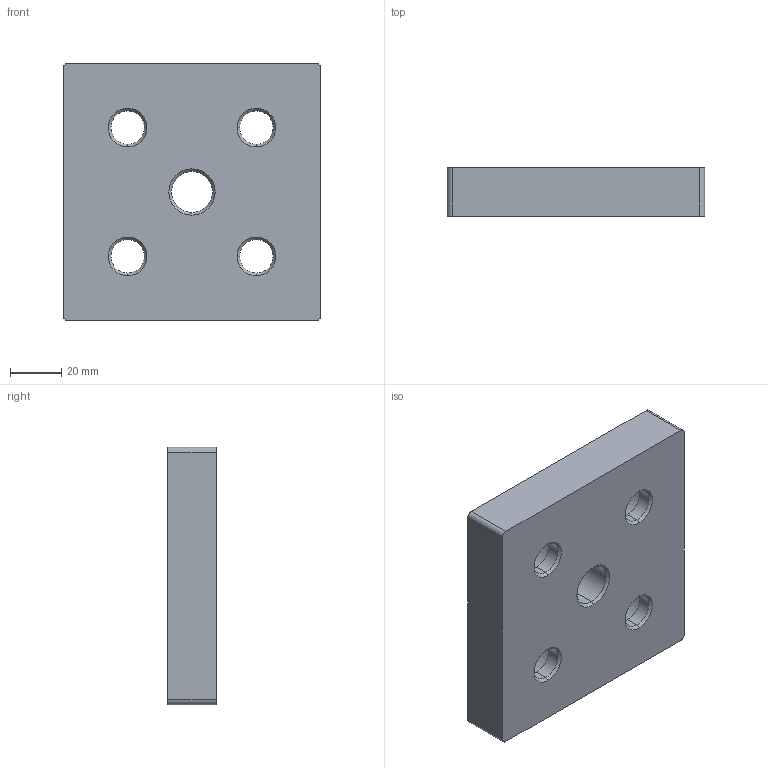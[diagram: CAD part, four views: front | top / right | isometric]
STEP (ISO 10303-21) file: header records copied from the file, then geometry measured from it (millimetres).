
FILE_DESCRIPTION (( 'STEP AP203' ), '1' );
FILE_NAME ('7007.STEP', '2017-04-20T05:41:05', ( '' ), ( '' ), 'SwSTEP 2.0', 'SolidWorks 2014', '' );
FILE_SCHEMA (( 'CONFIG_CONTROL_DESIGN' ));
Length unit declared in the file: millimetre
Products named in the file (1): 7007
Bounding box: 100 x 19 x 100 mm (x, y, z)
Volume: 162881.5 mm3; surface area: 31289.6 mm2
Topology: 1 solids, 1 shells, 52 faces, 118 edges, 72 vertices
Faces by surface type: cylinder 22, cone 20, plane 10
Entity records: 1563 total; most frequent: DIRECTION 288, CARTESIAN_POINT 243, ORIENTED_EDGE 236, EDGE_CURVE 118, AXIS2_PLACEMENT_3D 117, VERTEX_POINT 72, EDGE_LOOP 66, CIRCLE 64
